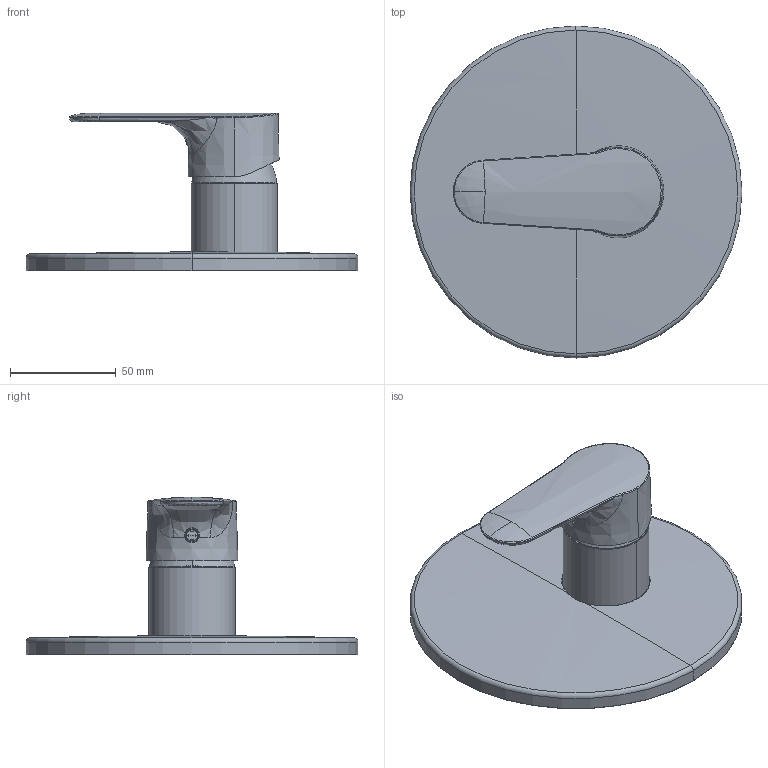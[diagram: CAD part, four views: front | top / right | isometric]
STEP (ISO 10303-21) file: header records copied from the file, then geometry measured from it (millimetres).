
FILE_DESCRIPTION((''),'2;1');
FILE_NAME('F3869X1CR_FILE_3D','2017-10-02T',('ivanv'),(''),'CREO PARAMETRIC BY PTC INC, 2016260','CREO PARAMETRIC BY PTC INC, 2016260','');
FILE_SCHEMA(('CONFIG_CONTROL_DESIGN'));
Length unit declared in the file: millimetre
Products named in the file (1): F3869X1CR_FILE_3D
Bounding box: 157 x 157 x 74.5 mm (x, y, z)
Volume: 96147.9 mm3; surface area: 72530.2 mm2
Topology: 3 solids, 3 shells, 1087 faces, 2830 edges, 1772 vertices
Faces by surface type: plane 656, bspline 183, cylinder 106, torus 58, sphere 54, cone 30
Entity records: 46202 total; most frequent: CARTESIAN_POINT 21840, ORIENTED_EDGE 5656, DIRECTION 4171, EDGE_CURVE 2828, VERTEX_POINT 1772, AXIS2_PLACEMENT_3D 1405, VECTOR 1361, LINE 1361
